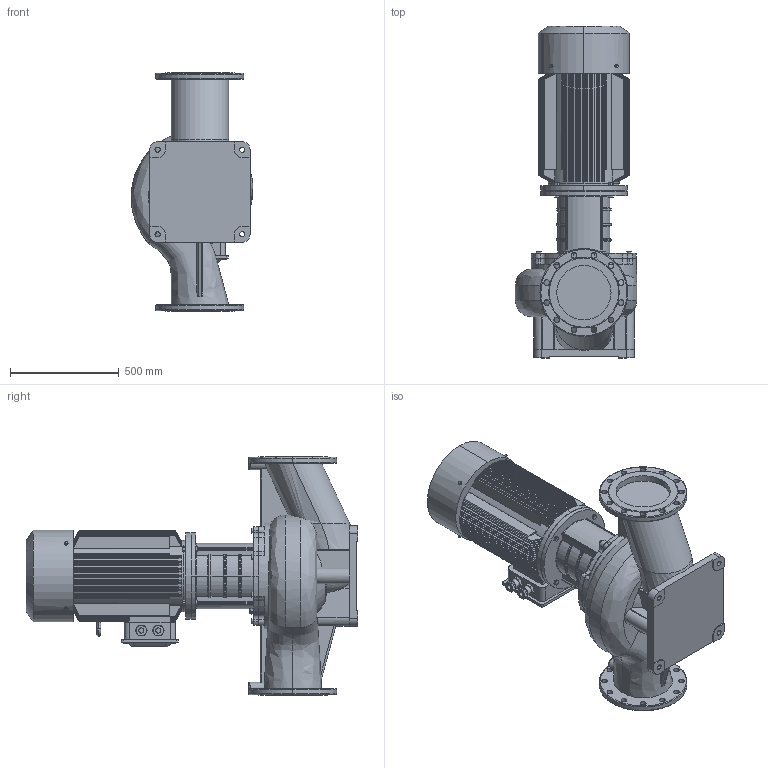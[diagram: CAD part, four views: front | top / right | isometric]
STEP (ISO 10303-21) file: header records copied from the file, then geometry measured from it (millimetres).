
FILE_DESCRIPTION (( 'STEP AP203' ), '1' );
FILE_NAME ('TD250-12.5G／4.STEP', '2026-09-07T03:15:10', ( '' ), ( '' ), 'SwSTEP 2.0', 'SolidWorks 2020', '' );
FILE_SCHEMA (( 'CONFIG_CONTROL_DESIGN' ));
Products named in the file (1): TD250-12.5Gㄞ4
Bounding box: 560.85 x 1529 x 1100 mm (x, y, z)
Volume: 227694260 mm3; surface area: 7608224.8 mm2
Topology: 1 solids, 17 shells, 1852 faces, 4652 edges, 2849 vertices
Faces by surface type: plane 698, cylinder 541, cone 425, torus 117, sphere 44, bspline 27
Entity records: 77814 total; most frequent: CARTESIAN_POINT 34203, ORIENTED_EDGE 9216, DIRECTION 9121, EDGE_CURVE 4608, AXIS2_PLACEMENT_3D 3669, VERTEX_POINT 2849, EDGE_LOOP 1985, FACE_OUTER_BOUND 1852
